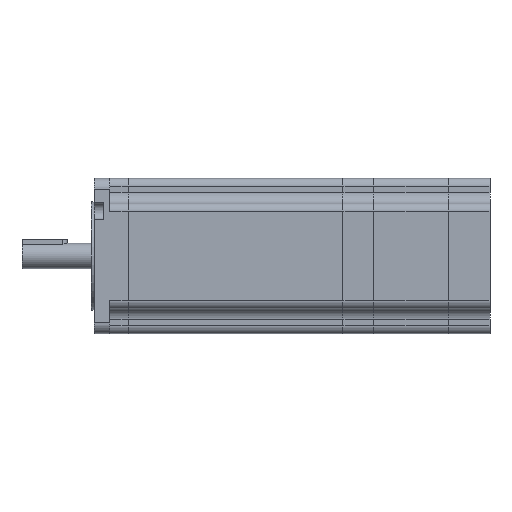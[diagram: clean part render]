
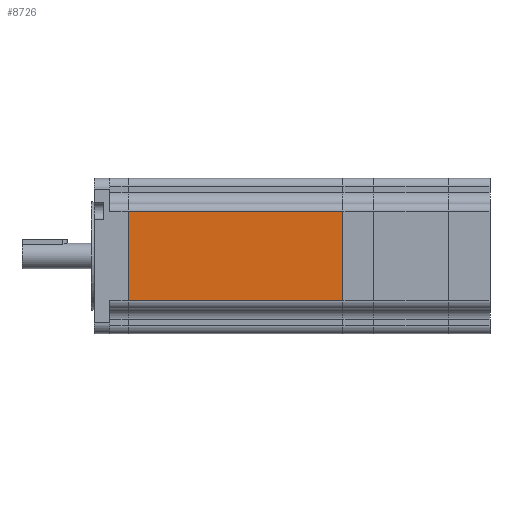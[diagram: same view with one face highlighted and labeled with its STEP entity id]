
A CAD part, left-side view. The second image highlights one B-rep face of the part: STEP entity #8726.
In plain terms, the highlighted planar face has unit normal (-1, 0, 0).
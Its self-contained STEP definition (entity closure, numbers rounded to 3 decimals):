
#156 = CARTESIAN_POINT ( 'NONE',  ( 0., 119., -67.8 ) ) ;
#279 = DIRECTION ( 'NONE',  ( 0., 0., 1. ) ) ;
#385 = CARTESIAN_POINT ( 'NONE',  ( 0., 0., -67.8 ) ) ;
#488 = LINE ( 'NONE', #767, #8523 ) ;
#566 = AXIS2_PLACEMENT_3D ( 'NONE', #2730, #6120, #7695 ) ;
#593 = EDGE_CURVE ( 'NONE', #1833, #1327, #6226, .T. ) ;
#767 = CARTESIAN_POINT ( 'NONE',  ( 0., 119., -67.8 ) ) ;
#1165 = CARTESIAN_POINT ( 'NONE',  ( 0., 119., -67.8 ) ) ;
#1327 = VERTEX_POINT ( 'NONE', #1531 ) ;
#1531 = CARTESIAN_POINT ( 'NONE',  ( 0., 0., -18.2 ) ) ;
#1715 = DIRECTION ( 'NONE',  ( 0., -1., 0. ) ) ;
#1789 = EDGE_CURVE ( 'NONE', #9835, #1833, #488, .T. ) ;
#1833 = VERTEX_POINT ( 'NONE', #7090 ) ;
#1964 = FACE_OUTER_BOUND ( 'NONE', #4677, .T. ) ;
#2730 = CARTESIAN_POINT ( 'NONE',  ( 0., 119., -67.8 ) ) ;
#4180 = VECTOR ( 'NONE', #1715, 1000. ) ;
#4339 = VECTOR ( 'NONE', #279, 1000. ) ;
#4586 = ORIENTED_EDGE ( 'NONE', *, *, #6238, .T. ) ;
#4677 = EDGE_LOOP ( 'NONE', ( #9991, #5620, #6492, #4586 ) ) ;
#4968 = PLANE ( 'NONE',  #566 ) ;
#5168 = VECTOR ( 'NONE', #7900, 1000. ) ;
#5620 = ORIENTED_EDGE ( 'NONE', *, *, #593, .F. ) ;
#6057 = EDGE_CURVE ( 'NONE', #9488, #1327, #6379, .T. ) ;
#6120 = DIRECTION ( 'NONE',  ( 1., 0., 0. ) ) ;
#6226 = LINE ( 'NONE', #9774, #4180 ) ;
#6238 = EDGE_CURVE ( 'NONE', #9835, #9488, #7227, .T. ) ;
#6379 = LINE ( 'NONE', #385, #4339 ) ;
#6492 = ORIENTED_EDGE ( 'NONE', *, *, #1789, .F. ) ;
#7090 = CARTESIAN_POINT ( 'NONE',  ( 0., 119., -18.2 ) ) ;
#7227 = LINE ( 'NONE', #156, #5168 ) ;
#7695 = DIRECTION ( 'NONE',  ( 0., 0., -1. ) ) ;
#7900 = DIRECTION ( 'NONE',  ( 0., -1., 0. ) ) ;
#8425 = CARTESIAN_POINT ( 'NONE',  ( 0., 0., -67.8 ) ) ;
#8523 = VECTOR ( 'NONE', #8981, 1000. ) ;
#8726 = ADVANCED_FACE ( 'NONE', ( #1964 ), #4968, .F. ) ;
#8981 = DIRECTION ( 'NONE',  ( 0., 0., 1. ) ) ;
#9488 = VERTEX_POINT ( 'NONE', #8425 ) ;
#9774 = CARTESIAN_POINT ( 'NONE',  ( 0., 119., -18.2 ) ) ;
#9835 = VERTEX_POINT ( 'NONE', #1165 ) ;
#9991 = ORIENTED_EDGE ( 'NONE', *, *, #6057, .T. ) ;
